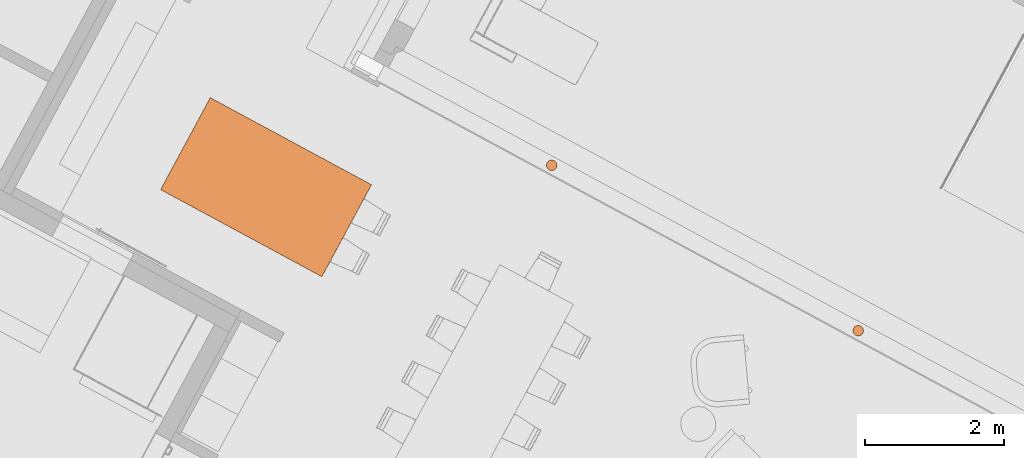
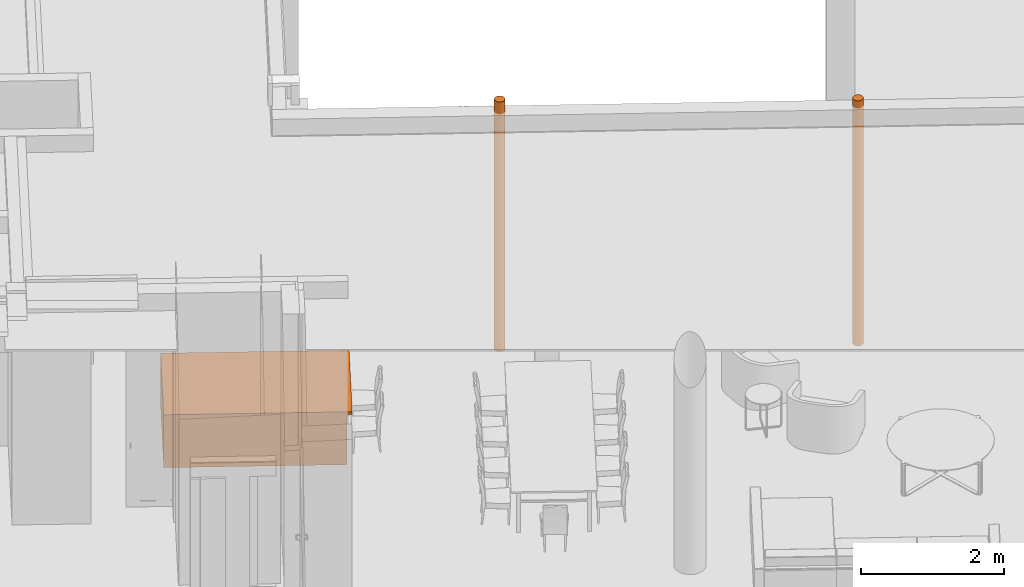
# One storey, part 49 of 52: 3 proxies.
"""IFC2X3 building model written with IfcOpenShell, lengths in metres."""

from ifc_helpers import new_model, entity, si_unit, converted_unit, derived_unit, money_unit, direction, frame, origin_with_axes, place, context, subcontext, project, spatial, faceted_brep, material, type_object, element, save


model = new_model("IFC2X3")

# Units and contexts
model_context = context("Model", 3, precision=1e-05, world=origin_with_axes(), true_north=direction((0.0, 1.0)))
body_context = subcontext(model_context, "Body", "Model", "MODEL_VIEW")
ifc_project = project(units=[si_unit("LENGTHUNIT", "METRE"), si_unit("AREAUNIT", "SQUARE_METRE"), si_unit("VOLUMEUNIT", "CUBIC_METRE"), converted_unit("PLANEANGLEUNIT", "DEGREE", entity("IfcPlaneAngleMeasure", 0.0174532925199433), si_unit("PLANEANGLEUNIT", "RADIAN"), dimensions=[0, 0, 0, 0, 0, 0, 0]), money_unit("EUR"), converted_unit("TIMEUNIT", "Year", entity("IfcTimeMeasure", 31556926.0), si_unit("TIMEUNIT", "SECOND"), dimensions=[0, 0, 1, 0, 0, 0, 0]), si_unit("MASSUNIT", "GRAM", prefix="KILO"), si_unit("THERMODYNAMICTEMPERATUREUNIT", "DEGREE_CELSIUS"), si_unit("LUMINOUSINTENSITYUNIT", "LUMEN"), si_unit("ENERGYUNIT", "JOULE", prefix="MEGA"), derived_unit("THERMALCONDUCTANCEUNIT", [(si_unit("POWERUNIT", "WATT"), 1), (si_unit("LENGTHUNIT", "METRE"), -1), (si_unit("THERMODYNAMICTEMPERATUREUNIT", "KELVIN"), -1)]), derived_unit("SPECIFICHEATCAPACITYUNIT", [(si_unit("ENERGYUNIT", "JOULE"), 1), (si_unit("MASSUNIT", "GRAM", prefix="KILO"), -1), (si_unit("THERMODYNAMICTEMPERATUREUNIT", "KELVIN"), -1)]), derived_unit("MASSDENSITYUNIT", [(si_unit("MASSUNIT", "GRAM", prefix="KILO"), 1), (si_unit("VOLUMEUNIT", "CUBIC_METRE"), -1)])], contexts=[model_context])

# Site, building, storey
site_placement = place(None, frame((-3.949935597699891, 1.740105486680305, 0.0), z_axis=(0.0, 0.0, 1.0), x_axis=(0.8799804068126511, -0.475009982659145, 0.0)))
site = spatial("IfcSite", under=ifc_project, at=site_placement, Name="Gelände", CompositionType="ELEMENT")
building_placement = place(site_placement, origin_with_axes())
building = spatial("IfcBuilding", under=site, at=building_placement, Name="Gebäude", CompositionType="ELEMENT")
storey_placement = place(building_placement, origin_with_axes())
storey = spatial("IfcBuildingStorey", under=building, at=storey_placement, Name="Erdgeschoss", CompositionType="ELEMENT", Elevation=0.0)

# Proxies
ifc_material = material(Name="Metall, Edelstahl")
building_element_proxy_type_1 = type_object("IfcBuildingElementProxyType", Name="Metall, Edelstahl D152", PredefinedType="NOTDEFINED")
proxy_1_placement = place(storey_placement, frame((25.33797719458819, 14.96310096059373, -0.1499999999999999), z_axis=(0.0, 0.0, 1.0), x_axis=(1.0, 0.0, 0.0)))
element("IfcBuildingElementProxy", 1, at=proxy_1_placement, inside=storey, type_object=building_element_proxy_type_1, material=ifc_material, Name="Stütze-003", context=body_context, shape_type="Brep", body=[
    faceted_brep([(-0.07600000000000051, 0.0, 4.170000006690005), (-0.07600000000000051, 0.0, 0.0), (-0.07228029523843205, -0.02348529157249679, 0.0), (-0.07228029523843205, -0.02348529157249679, 4.170000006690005), (-0.07228029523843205, 0.02348529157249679, 4.170000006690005), (-0.07228029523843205, 0.02348529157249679, 0.0), (-0.06148529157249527, 0.04467167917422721, 0.0), (-0.04467167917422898, 0.06148529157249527, 0.0), (-0.02348529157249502, 0.07228029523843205, 0.0), (0.0, 0.07600000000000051, 0.0), (0.02348529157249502, 0.07228029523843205, 0.0), (0.04467167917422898, 0.06148529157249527, 0.0), (0.06148529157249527, 0.04467167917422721, 0.0), (0.07228029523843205, 0.02348529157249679, 0.0), (0.07600000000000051, 0.0, 0.0), (0.07228029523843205, -0.02348529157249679, 0.0), (0.06148529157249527, -0.04467167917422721, 0.0), (0.04467167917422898, -0.06148529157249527, 0.0), (0.02348529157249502, -0.07228029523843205, 0.0), (0.0, -0.07600000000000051, 0.0), (-0.02348529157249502, -0.07228029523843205, 0.0), (-0.04467167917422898, -0.06148529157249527, 0.0), (-0.06148529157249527, -0.04467167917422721, 0.0), (-0.06148529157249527, -0.04467167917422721, 4.170000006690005), (-0.04467167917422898, -0.06148529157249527, 4.170000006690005), (-0.02348529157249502, -0.07228029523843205, 4.170000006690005), (0.0, -0.07600000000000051, 4.170000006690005), (0.02348529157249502, -0.07228029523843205, 4.170000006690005), (0.04467167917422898, -0.06148529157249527, 4.170000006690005), (0.06148529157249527, -0.04467167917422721, 4.170000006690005), (0.07228029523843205, -0.02348529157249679, 4.170000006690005), (0.07600000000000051, 0.0, 4.170000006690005), (0.07228029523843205, 0.02348529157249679, 4.170000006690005), (0.06148529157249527, 0.04467167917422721, 4.170000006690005), (0.04467167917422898, 0.06148529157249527, 4.170000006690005), (0.02348529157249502, 0.07228029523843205, 4.170000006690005), (0.0, 0.07600000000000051, 4.170000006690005), (-0.02348529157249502, 0.07228029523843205, 4.170000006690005), (-0.04467167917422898, 0.06148529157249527, 4.170000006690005), (-0.06148529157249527, 0.04467167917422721, 4.170000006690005)], [[[0, 1, 2, 3]], [[4, 5, 1, 0]], [[2, 1, 5, 6, 7, 8, 9, 10, 11, 12, 13, 14, 15, 16, 17, 18, 19, 20, 21, 22]], [[3, 2, 22, 23]], [[4, 0, 3, 23, 24, 25, 26, 27, 28, 29, 30, 31, 32, 33, 34, 35, 36, 37, 38, 39]], [[39, 6, 5, 4]], [[38, 7, 6, 39]], [[37, 8, 7, 38]], [[36, 9, 8, 37]], [[35, 10, 9, 36]], [[34, 11, 10, 35]], [[33, 12, 11, 34]], [[32, 13, 12, 33]], [[31, 14, 13, 32]], [[30, 15, 14, 31]], [[29, 16, 15, 30]], [[28, 17, 16, 29]], [[27, 18, 17, 28]], [[26, 19, 18, 27]], [[25, 20, 19, 26]], [[24, 21, 20, 25]], [[23, 22, 21, 24]]]),
])
proxy_2_placement = place(storey_placement, frame((20.34097637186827, 14.96310096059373, -0.1499999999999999), z_axis=(0.0, 0.0, 1.0), x_axis=(1.0, 0.0, 0.0)))
element("IfcBuildingElementProxy", 2, at=proxy_2_placement, inside=storey, type_object=building_element_proxy_type_1, material=ifc_material, Name="Stütze-003", context=body_context, shape_type="Brep", body=[
    faceted_brep([(-0.07600000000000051, 0.0, 4.250000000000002), (-0.07600000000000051, 0.0, 0.0), (-0.07228029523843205, -0.02348529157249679, 0.0), (-0.07228029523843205, -0.02348529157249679, 4.250000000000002), (-0.07228029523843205, 0.02348529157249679, 4.250000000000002), (-0.07228029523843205, 0.02348529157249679, 0.0), (-0.06148529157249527, 0.04467167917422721, 0.0), (-0.04467167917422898, 0.06148529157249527, 0.0), (-0.02348529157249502, 0.07228029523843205, 0.0), (0.0, 0.07600000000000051, 0.0), (0.02348529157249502, 0.07228029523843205, 0.0), (0.04467167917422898, 0.06148529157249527, 0.0), (0.06148529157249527, 0.04467167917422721, 0.0), (0.07228029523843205, 0.02348529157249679, 0.0), (0.07600000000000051, 0.0, 0.0), (0.07228029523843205, -0.02348529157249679, 0.0), (0.06148529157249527, -0.04467167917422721, 0.0), (0.04467167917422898, -0.06148529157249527, 0.0), (0.02348529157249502, -0.07228029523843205, 0.0), (0.0, -0.07600000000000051, 0.0), (-0.02348529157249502, -0.07228029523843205, 0.0), (-0.04467167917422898, -0.06148529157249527, 0.0), (-0.06148529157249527, -0.04467167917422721, 0.0), (-0.06148529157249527, -0.04467167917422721, 4.250000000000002), (-0.04467167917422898, -0.06148529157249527, 4.250000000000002), (-0.02348529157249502, -0.07228029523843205, 4.250000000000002), (0.0, -0.07600000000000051, 4.250000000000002), (0.02348529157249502, -0.07228029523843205, 4.250000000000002), (0.04467167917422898, -0.06148529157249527, 4.250000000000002), (0.06148529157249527, -0.04467167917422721, 4.250000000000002), (0.07228029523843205, -0.02348529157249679, 4.250000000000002), (0.07600000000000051, 0.0, 4.250000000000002), (0.07228029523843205, 0.02348529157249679, 4.250000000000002), (0.06148529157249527, 0.04467167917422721, 4.250000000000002), (0.04467167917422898, 0.06148529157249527, 4.250000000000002), (0.02348529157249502, 0.07228029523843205, 4.250000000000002), (0.0, 0.07600000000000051, 4.250000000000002), (-0.02348529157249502, 0.07228029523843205, 4.250000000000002), (-0.04467167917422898, 0.06148529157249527, 4.250000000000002), (-0.06148529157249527, 0.04467167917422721, 4.250000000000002)], [[[0, 1, 2, 3]], [[4, 5, 1, 0]], [[2, 1, 5, 6, 7, 8, 9, 10, 11, 12, 13, 14, 15, 16, 17, 18, 19, 20, 21, 22]], [[3, 2, 22, 23]], [[4, 0, 3, 23, 24, 25, 26, 27, 28, 29, 30, 31, 32, 33, 34, 35, 36, 37, 38, 39]], [[39, 6, 5, 4]], [[38, 7, 6, 39]], [[37, 8, 7, 38]], [[36, 9, 8, 37]], [[35, 10, 9, 36]], [[34, 11, 10, 35]], [[33, 12, 11, 34]], [[32, 13, 12, 33]], [[31, 14, 13, 32]], [[30, 15, 14, 31]], [[29, 16, 15, 30]], [[28, 17, 16, 29]], [[27, 18, 17, 28]], [[26, 19, 18, 27]], [[25, 20, 19, 26]], [[24, 21, 20, 25]], [[23, 22, 21, 24]]]),
])
building_element_proxy_type_2 = type_object("IfcBuildingElementProxyType", Name="Unterschrank Mehrfach-Schublade 22", PredefinedType="NOTDEFINED")
proxy_3_placement = place(storey_placement, frame((18.1989561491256, 13.48952249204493, 0.0), z_axis=(0.0, 0.0, 1.0), x_axis=(0.0, 1.0, 0.0)))
element("IfcBuildingElementProxy", 3, at=proxy_3_placement, inside=storey, type_object=building_element_proxy_type_2, Name="Objekt-0064", context=body_context, shape_type="Brep", body=[
    faceted_brep([(0.0, 0.07, 0.0), (0.0, 0.07, 0.09), (-1.5, 0.07, 0.09), (-1.5, 0.07, 0.0), (0.0, 2.63, 0.0), (0.0, 2.63, 0.09), (-1.5, 2.63, 0.09), (-1.5, 2.63, 0.0)], [[[0, 1, 2, 3]], [[4, 5, 1, 0]], [[1, 5, 6, 2]], [[3, 2, 6, 7]], [[0, 3, 7, 4]], [[7, 6, 5, 4]]]),
    faceted_brep([(0.0, 0.07, 0.83), (0.0, 0.07, 0.85), (-0.02, 0.07, 0.85), (-0.02, 0.07, 0.83), (0.0, 2.63, 0.83), (0.0, 2.63, 0.85), (-0.02, 2.63, 0.85), (-1.48, 2.63, 0.85), (-1.5, 2.63, 0.85), (-1.5, 0.07, 0.85), (-1.48, 0.07, 0.85), (-1.48, 0.07, 0.83), (-1.5, 0.07, 0.83), (-1.5, 2.63, 0.83), (-1.48, 2.63, 0.83), (-0.02, 2.63, 0.83)], [[[0, 1, 2, 3]], [[4, 5, 1, 0]], [[1, 5, 6, 7, 8, 9, 10, 2]], [[3, 2, 10, 11]], [[0, 3, 11, 12, 13, 14, 15, 4]], [[15, 6, 5, 4]], [[14, 7, 6, 15]], [[13, 8, 7, 14]], [[12, 9, 8, 13]], [[11, 10, 9, 12]]]),
    faceted_brep([(0.0, 0.07, 0.09), (0.0, 0.07, 0.11), (-0.02, 0.07, 0.11), (-0.02, 0.07, 0.09), (0.0, 2.63, 0.09), (0.0, 2.63, 0.11), (-0.02, 2.63, 0.11), (-1.48, 2.63, 0.11), (-1.5, 2.63, 0.11), (-1.5, 0.07, 0.11), (-1.48, 0.07, 0.11), (-1.48, 0.07, 0.09), (-1.5, 0.07, 0.09), (-1.5, 2.63, 0.09), (-1.48, 2.63, 0.09), (-0.02, 2.63, 0.09)], [[[0, 1, 2, 3]], [[4, 5, 1, 0]], [[1, 5, 6, 7, 8, 9, 10, 2]], [[3, 2, 10, 11]], [[0, 3, 11, 12, 13, 14, 15, 4]], [[15, 6, 5, 4]], [[14, 7, 6, 15]], [[13, 8, 7, 14]], [[12, 9, 8, 13]], [[11, 10, 9, 12]]]),
    faceted_brep([(0.0, 0.07, 0.11), (0.0, 0.07, 0.83), (-0.02, 0.07, 0.83), (-0.02, 0.07, 0.11), (0.0, 2.63, 0.11), (0.0, 2.63, 0.83), (-1.5, 2.63, 0.83), (-1.5, 0.07, 0.83), (-1.48, 0.07, 0.83), (-1.48, 2.61, 0.83), (-0.02, 2.61, 0.83), (-0.02, 2.61, 0.11), (-1.48, 2.61, 0.11), (-1.48, 0.07, 0.11), (-1.5, 0.07, 0.11), (-1.5, 2.63, 0.11)], [[[0, 1, 2, 3]], [[4, 5, 1, 0]], [[1, 5, 6, 7, 8, 9, 10, 2]], [[3, 2, 10, 11]], [[0, 3, 11, 12, 13, 14, 15, 4]], [[15, 6, 5, 4]], [[14, 7, 6, 15]], [[13, 8, 7, 14]], [[12, 9, 8, 13]], [[11, 10, 9, 12]]]),
    faceted_brep([(0.0, 0.0, 0.85), (0.0, 0.0, 0.9), (-1.5, 0.0, 0.9), (-1.5, 0.0, 0.85), (0.0, 2.63, 0.85), (0.0, 2.63, 0.9), (-1.5, 2.63, 0.9), (-1.5, 2.63, 0.85)], [[[0, 1, 2, 3]], [[4, 5, 1, 0]], [[1, 5, 6, 2]], [[3, 2, 6, 7]], [[0, 3, 7, 4]], [[7, 6, 5, 4]]]),
])

save(model, "model.ifc")
